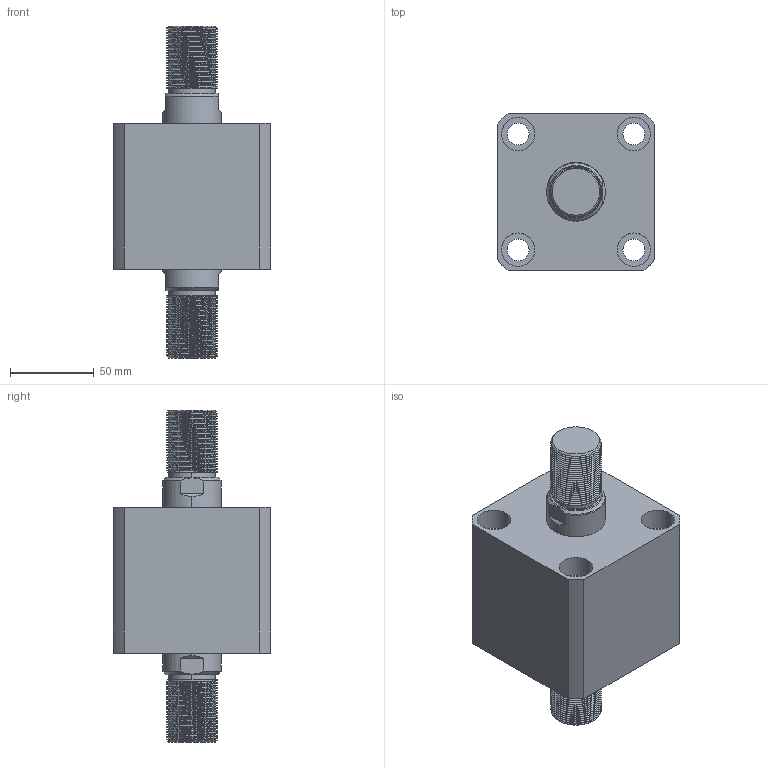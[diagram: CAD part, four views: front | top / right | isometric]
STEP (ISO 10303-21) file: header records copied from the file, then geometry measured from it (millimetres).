
FILE_DESCRIPTION (( 'STEP AP214' ), '1' );
FILE_NAME ('chtb-sw63x5w_asm.STEP', '2018-05-19T03:07:07', ( 'Windows' ), ( 'Microsoft' ), 'SwSTEP 2.0', 'SolidWorks 2015', '' );
FILE_SCHEMA (( 'AUTOMOTIVE_DESIGN' ));
Length unit declared in the file: millimetre
Products named in the file (4): CHTB-SW63X5WHSG; CHTB-SW63X5NBT; CHTB-63QG; chtb-sw63x5w_asm
Assembly tree (3 placements, depth 2):
  chtb-sw63x5w_asm
    CHTB-63QG
    CHTB-SW63X5NBT
    CHTB-SW63X5WHSG
Bounding box: 94 x 94 x 198 mm (x, y, z)
Volume: 762979.4 mm3; surface area: 133397.6 mm2
Topology: 3 solids, 3 shells, 296 faces, 841 edges, 569 vertices
Faces by surface type: cylinder 206, plane 46, bspline 16, cone 16, torus 12
Entity records: 27380 total; most frequent: CARTESIAN_POINT 20442, ORIENTED_EDGE 1674, DIRECTION 1166, EDGE_CURVE 837, VERTEX_POINT 569, AXIS2_PLACEMENT_3D 453, EDGE_LOOP 334, FACE_OUTER_BOUND 296
